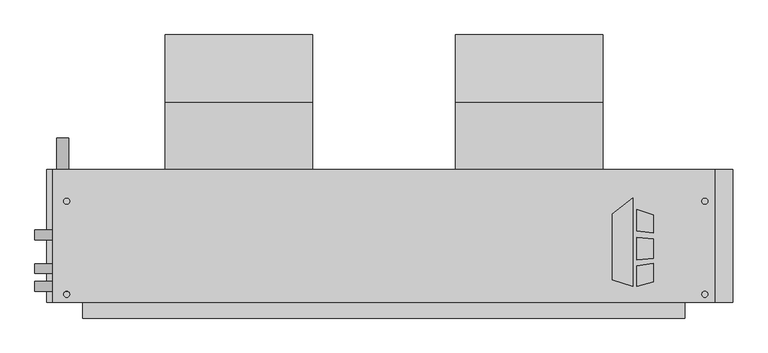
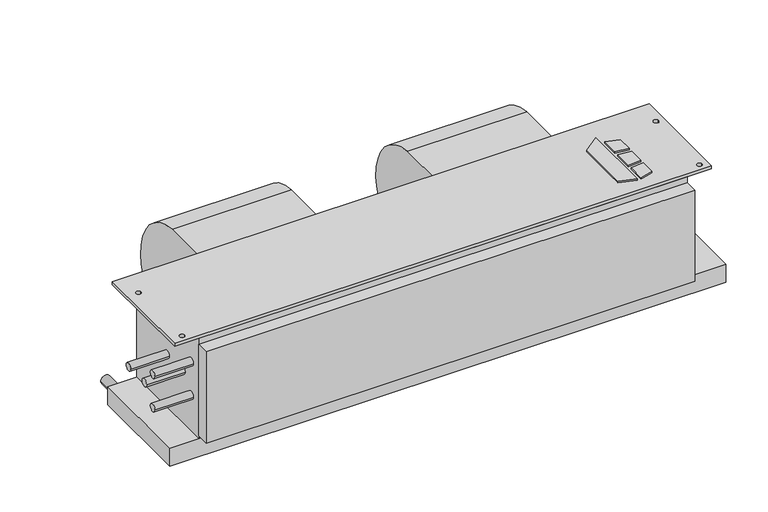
"""IFC4 building model written with IfcOpenShell, lengths in millimetres: proxy geometry, Concealed_Horizontal_Fan_Coil_Unit_-_CHY_-_IEC_-_4-Pipe_LH_2022 : Size 08 - 277v/60Hz/1Ph - 4/1 Coil."""

from ifc_helpers import new_model, si_unit, point, frame, frame_2d, origin, origin_with_axes, place, context, project, spatial, polyline, circle_curve, trimmed, segment, composite_curve, outline, extrude, source, transform, mapped, element, save


def mechanical_equipment_38e29a78(model_context):
    return source(origin(), model_context, "Body", "SweptSolid", [
        extrude(outline(polyline([(518.8019761, -202.5703476), (551.3602728, -177.1330184), (551.3602728, -319.0875), (518.8019761, -308.8679201), (518.8019761, -202.5703476)])), origin_with_axes(), (0.0, 0.0, 1.0), 3.175),
        extrude(outline(polyline([(558.1186058, -230.442352), (558.1186058, -195.9624379), (584.2, -204.1490115), (584.2, -233.6447446), (558.1186058, -230.442352)])), origin_with_axes(), (0.0, 0.0, 1.0), 3.175),
        extrude(outline(polyline([(584.2, -312.0990115), (558.1186058, -319.0875), (558.1186058, -285.8661996), (584.2, -282.3243564), (584.2, -312.0990115)])), origin_with_axes(), (0.0, 0.0, 1.0), 3.175),
        extrude(outline(polyline([(584.2, -242.7263277), (584.2, -273.976483), (558.1186058, -276.717748), (558.1186058, -240.8600378), (584.2, -242.7263277)])), origin_with_axes(), (0.0, 0.0, 1.0), 3.175),
        extrude(outline(composite_curve([segment(trimmed(circle_curve(frame_2d((-33.198831, -136.0299844)), 117.3559541), [point((-23.8125, -19.05))], [point((84.1375, -138.176))], False, "CARTESIAN"), True, "CONTINUOUS"), segment(trimmed(circle_curve(frame_2d((-11.5977337, -136.4250563)), 95.7512443), [point((84.1375, -138.176))], [point((-23.8125, -231.394))], False, "CARTESIAN"), True, "CONTINUOUS"), segment(trimmed(circle_curve(frame_2d((-11.6288131, -136.6666968)), 95.5076133), [point((-23.8125, -231.394))], [point((-107.1245, -138.176))], False, "CARTESIAN"), True, "CONTINUOUS"), segment(trimmed(circle_curve(frame_2d((-126.2059828, -138.4775816)), 19.0838659), [point((-107.1245, -138.176))], [point((-119.3963373, -120.65))], True, "CARTESIAN"), True, "CONTINUOUS"), segment(polyline([(-119.3963373, -120.65), (-131.7625, -120.65), (-131.7625, -19.05), (-23.8125, -19.05)]), True, "CONTINUOUS")], self_intersect=False)), frame((267.5255, 0.0, 0.0), z_axis=(1.0, 0.0, 0.0), x_axis=(0.0, 1.0, 0.0)), (0.0, 0.0, 1.0), 235.712),
        extrude(outline(composite_curve([segment(trimmed(circle_curve(frame_2d((-33.198831, -136.0299844)), 117.3559541), [point((-23.8125, -19.05))], [point((84.1375, -138.176))], False, "CARTESIAN"), True, "CONTINUOUS"), segment(trimmed(circle_curve(frame_2d((-11.5977337, -136.4250563)), 95.7512443), [point((84.1375, -138.176))], [point((-23.8125, -231.394))], False, "CARTESIAN"), True, "CONTINUOUS"), segment(trimmed(circle_curve(frame_2d((-11.6288131, -136.6666968)), 95.5076133), [point((-23.8125, -231.394))], [point((-107.1245, -138.176))], False, "CARTESIAN"), True, "CONTINUOUS"), segment(trimmed(circle_curve(frame_2d((-126.2059828, -138.4775816)), 19.0838659), [point((-107.1245, -138.176))], [point((-119.3963373, -120.65))], True, "CARTESIAN"), True, "CONTINUOUS"), segment(polyline([(-119.3963373, -120.65), (-131.7625, -120.65), (-131.7625, -19.05), (-23.8125, -19.05)]), True, "CONTINUOUS")], self_intersect=False)), frame((-197.612, 0.0, 0.0), z_axis=(1.0, 0.0, 0.0), x_axis=(0.0, 1.0, 0.0)), (0.0, 0.0, 1.0), 235.712),
        extrude(outline(polyline([(682.625, -131.7625), (682.625, -344.4875), (-377.825, -344.4875), (-377.825, -131.7625), (682.625, -131.7625)]), holes=[composite_curve([segment(trimmed(circle_curve(frame_2d((-355.6, -182.5625)), 4.7625), [point((-360.3625, -182.5625))], [point((-350.8375, -182.5625))], True, "CARTESIAN"), True, "CONTINUOUS"), segment(trimmed(circle_curve(frame_2d((-355.6, -182.5625)), 4.7625), [point((-350.8375, -182.5625))], [point((-360.3625, -182.5625))], True, "CARTESIAN"), True, "CONTINUOUS")], self_intersect=False), composite_curve([segment(trimmed(circle_curve(frame_2d((-355.6, -331.7875)), 4.7625), [point((-360.3625, -331.7875))], [point((-350.8375, -331.7875))], True, "CARTESIAN"), True, "CONTINUOUS"), segment(trimmed(circle_curve(frame_2d((-355.6, -331.7875)), 4.7625), [point((-350.8375, -331.7875))], [point((-360.3625, -331.7875))], True, "CARTESIAN"), True, "CONTINUOUS")], self_intersect=False), composite_curve([segment(trimmed(circle_curve(frame_2d((666.75, -182.5625)), 4.7625), [point((661.9875, -182.5625))], [point((671.5125, -182.5625))], True, "CARTESIAN"), True, "CONTINUOUS"), segment(trimmed(circle_curve(frame_2d((666.75, -182.5625)), 4.7625), [point((671.5125, -182.5625))], [point((661.9875, -182.5625))], True, "CARTESIAN"), True, "CONTINUOUS")], self_intersect=False), composite_curve([segment(trimmed(circle_curve(frame_2d((666.75, -331.7875)), 4.7625), [point((661.9875, -331.7875))], [point((671.5125, -331.7875))], True, "CARTESIAN"), True, "CONTINUOUS"), segment(trimmed(circle_curve(frame_2d((666.75, -331.7875)), 4.7625), [point((671.5125, -331.7875))], [point((661.9875, -331.7875))], True, "CARTESIAN"), True, "CONTINUOUS")], self_intersect=False)]), frame((0.0, 0.0, -6.35), z_axis=(0.0, 0.0, 1.0), x_axis=(1.0, 0.0, 0.0)), (0.0, 0.0, 1.0), 6.35),
        extrude(outline(composite_curve([segment(trimmed(circle_curve(frame_2d((-241.3, -361.95)), 9.525), [point((-241.3, -371.475))], [point((-241.3, -352.425))], False, "CARTESIAN"), True, "CONTINUOUS"), segment(trimmed(circle_curve(frame_2d((-241.3, -361.95)), 9.525), [point((-241.3, -352.425))], [point((-241.3, -371.475))], False, "CARTESIAN"), True, "CONTINUOUS")], self_intersect=False)), frame((0.0, -131.7625, 0.0), z_axis=(0.0, 1.0, 0.0), x_axis=(0.0, 0.0, 1.0)), (0.0, 0.0, 1.0), 50.8),
        extrude(outline(polyline([(635.0, -369.8875), (-330.2, -369.8875), (-330.2, -344.4875), (635.0, -344.4875), (635.0, -369.8875)])), frame((0.0, 0.0, -209.55), z_axis=(0.0, 0.0, 1.0), x_axis=(1.0, 0.0, 0.0)), (0.0, 0.0, 1.0), 190.5),
        extrude(outline(polyline([(711.2, -131.7625), (711.2, -344.4875), (-387.35, -344.4875), (-387.35, -131.7625), (711.2, -131.7625)])), frame((0.0, 0.0, -254.0), z_axis=(0.0, 0.0, 1.0), x_axis=(1.0, 0.0, 0.0)), (0.0, 0.0, 1.0), 38.1),
        extrude(outline(composite_curve([segment(trimmed(circle_curve(frame_2d((-236.5375, -104.775)), 7.9375), [point((-228.6, -104.775))], [point((-244.475, -104.775))], False, "CARTESIAN"), True, "CONTINUOUS"), segment(trimmed(circle_curve(frame_2d((-236.5375, -104.775)), 7.9375), [point((-244.475, -104.775))], [point((-228.6, -104.775))], False, "CARTESIAN"), True, "CONTINUOUS")], self_intersect=False)), frame((-406.4, 0.0, 0.0), z_axis=(1.0, 0.0, 0.0), x_axis=(0.0, 1.0, 0.0)), (0.0, 0.0, 1.0), 76.2),
        extrude(outline(composite_curve([segment(trimmed(circle_curve(frame_2d((-290.5125, -104.775)), 7.9375), [point((-282.575, -104.775))], [point((-298.45, -104.775))], False, "CARTESIAN"), True, "CONTINUOUS"), segment(trimmed(circle_curve(frame_2d((-290.5125, -104.775)), 7.9375), [point((-298.45, -104.775))], [point((-282.575, -104.775))], False, "CARTESIAN"), True, "CONTINUOUS")], self_intersect=False)), frame((-406.4, 0.0, 0.0), z_axis=(1.0, 0.0, 0.0), x_axis=(0.0, 1.0, 0.0)), (0.0, 0.0, 1.0), 76.2),
        extrude(outline(composite_curve([segment(trimmed(circle_curve(frame_2d((-319.0875, -69.85)), 7.9375), [point((-311.15, -69.85))], [point((-327.025, -69.85))], False, "CARTESIAN"), True, "CONTINUOUS"), segment(trimmed(circle_curve(frame_2d((-319.0875, -69.85)), 7.9375), [point((-327.025, -69.85))], [point((-311.15, -69.85))], False, "CARTESIAN"), True, "CONTINUOUS")], self_intersect=False)), frame((-406.4, 0.0, 0.0), z_axis=(1.0, 0.0, 0.0), x_axis=(0.0, 1.0, 0.0)), (0.0, 0.0, 1.0), 76.2),
        extrude(outline(composite_curve([segment(trimmed(circle_curve(frame_2d((-319.0875, -139.7)), 7.9375), [point((-311.15, -139.7))], [point((-327.025, -139.7))], False, "CARTESIAN"), True, "CONTINUOUS"), segment(trimmed(circle_curve(frame_2d((-319.0875, -139.7)), 7.9375), [point((-327.025, -139.7))], [point((-311.15, -139.7))], False, "CARTESIAN"), True, "CONTINUOUS")], self_intersect=False)), frame((-406.4, 0.0, 0.0), z_axis=(1.0, 0.0, 0.0), x_axis=(0.0, 1.0, 0.0)), (0.0, 0.0, 1.0), 76.2),
        extrude(outline(polyline([(635.0, -344.4875), (-330.2, -344.4875), (-330.2, -131.7625), (635.0, -131.7625), (635.0, -344.4875)])), frame((0.0, 0.0, -215.9), z_axis=(0.0, 0.0, 1.0), x_axis=(1.0, 0.0, 0.0)), (0.0, 0.0, 1.0), 209.55),
    ])


if __name__ == "__main__":
    model = new_model("IFC4")
    model_context = context("Model", 3, world=origin())
    ifc_project = project(units=[si_unit("LENGTHUNIT", "METRE", prefix="MILLI")], contexts=[model_context])
    site = spatial("IfcSite", under=ifc_project)
    building = spatial("IfcBuilding", under=site)
    placement = place(None, origin())
    mechanical_equipment_shape = mechanical_equipment_38e29a78(model_context)
    element("IfcBuildingElementProxy", 1, Name="Concealed_Horizontal_Fan_Coil_Unit_-_CHY_-_IEC_-_4-Pipe_LH_2022 : Size 08 - 277v/60Hz/1Ph - 4/1 Coil", ObjectType="Concealed_Horizontal_Fan_Coil_Unit_-_CHY_-_IEC_-_4-Pipe_LH_2022 : Size 08 - 277v/60Hz/1Ph - 4/1 Coil", at=placement, inside=building, context=model_context, shape_type="MappedRepresentation", body=[
        mapped(mechanical_equipment_shape, transform((0.0, 0.0, 0.0), x_axis=(1.0, 0.0, 0.0), y_axis=(0.0, 1.0, 0.0), z_axis=(0.0, 0.0, 1.0))),
    ])
    save(model, "model.ifc")
